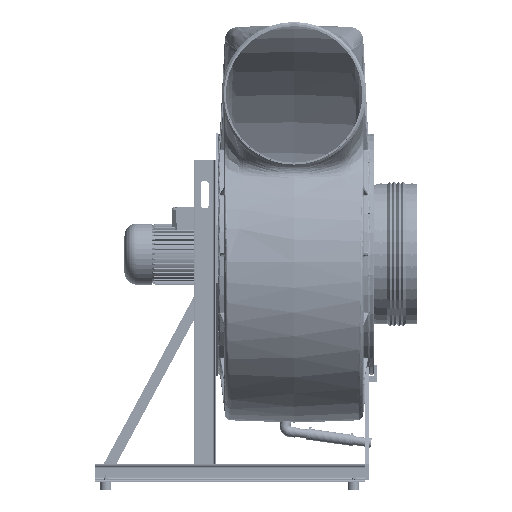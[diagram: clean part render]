
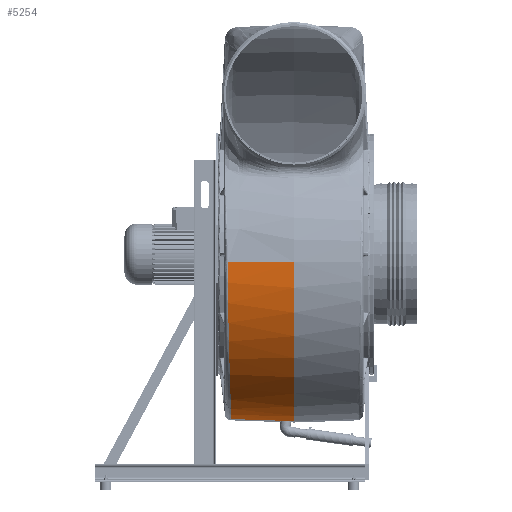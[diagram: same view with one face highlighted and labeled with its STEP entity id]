
A CAD part, left-side view. The second image highlights one B-rep face of the part: STEP entity #5254.
In plain terms, the highlighted face is a revolution surface.
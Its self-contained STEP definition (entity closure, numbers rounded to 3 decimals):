
#5254 = ADVANCED_FACE( '', ( #11540 ), #11541, .T. );
#11540 = FACE_OUTER_BOUND( '', #28043, .T. );
#11541 = SURFACE_OF_REVOLUTION( '', #28044, #28045 );
#28043 = EDGE_LOOP( '', ( #71989, #71990, #71991, #71992 ) );
#28044 = B_SPLINE_CURVE_WITH_KNOTS( '', 1, ( #71993, #71994, #71995, #71996, #71997, #71998 ), .UNSPECIFIED., .F., .F., ( 2, 1, 1, 1, 1, 2 ), ( -0.15, -0.01, 0., 1., 1.01, 1.15 ), .UNSPECIFIED. );
#28045 = AXIS1_PLACEMENT( '', #71999, #72000 );
#71989 = ORIENTED_EDGE( '', *, *, #101610, .T. );
#71990 = ORIENTED_EDGE( '', *, *, #101611, .F. );
#71991 = ORIENTED_EDGE( '', *, *, #101252, .F. );
#71992 = ORIENTED_EDGE( '', *, *, #101612, .F. );
#71993 = CARTESIAN_POINT( '', ( -287.56, -403.086, 378.263 ) );
#71994 = CARTESIAN_POINT( '', ( -252.56, -403.946, 379.109 ) );
#71995 = CARTESIAN_POINT( '', ( -250.06, -404.007, 379.169 ) );
#71996 = CARTESIAN_POINT( '', ( -0.06, -410.146, 385.21 ) );
#71997 = CARTESIAN_POINT( '', ( 2.44, -410.208, 385.271 ) );
#71998 = CARTESIAN_POINT( '', ( 37.44, -411.067, 386.116 ) );
#71999 = CARTESIAN_POINT( '', ( -125.06, -42.467, -42.467 ) );
#72000 = DIRECTION( '', ( 1., 0., 0. ) );
#101252 = EDGE_CURVE( '', #109897, #109889, #109899, .F. );
#101610 = EDGE_CURVE( '', #110503, #108474, #110504, .F. );
#101611 = EDGE_CURVE( '', #109889, #108474, #110505, .F. );
#101612 = EDGE_CURVE( '', #110503, #109897, #110506, .F. );
#108474 = VERTEX_POINT( '', #120200 );
#109889 = VERTEX_POINT( '', #125025 );
#109897 = VERTEX_POINT( '', #125078 );
#109899 = B_SPLINE_CURVE_WITH_KNOTS( '', 3, ( #125097, #125098, #125099, #125100 ), .UNSPECIFIED., .F., .F., ( 4, 4 ), ( 0., 0.954 ), .UNSPECIFIED. );
#110503 = VERTEX_POINT( '', #127485 );
#110504 = B_SPLINE_CURVE_WITH_KNOTS( '', 1, ( #127486, #127487, #127488 ), .UNSPECIFIED., .F., .F., ( 2, 1, 2 ), ( 0., 0., 0.903 ), .UNSPECIFIED. );
#110505 = CIRCLE( '', #127489, 564.001 );
#110506 = B_SPLINE_CURVE_WITH_KNOTS( '', 3, ( #127490, #127491, #127492, #127493, #127494, #127495, #127496, #127497, #127498, #127499, #127500, #127501, #127502, #127503, #127504, #127505, #127506, #127507, #127508, #127509, #127510, #127511, #127512, #127513, #127514, #127515, #127516, #127517, #127518, #127519, #127520, #127521, #127522, #127523, #127524, #127525, #127526, #127527, #127528, #127529, #127530, #127531, #127532, #127533, #127534, #127535, #127536, #127537 ), .UNSPECIFIED., .F., .F., ( 4, 2, 2, 2, 2, 2, 2, 2, 2, 2, 2, 2, 2, 2, 2, 2, 2, 2, 2, 2, 2, 2, 2, 4 ), ( 0., 0.063, 0.125, 0.188, 0.25, 0.313, 0.375, 0.438, 0.5, 0.563, 0.625, 0.688, 0.75, 0.813, 0.875, 0.938, 0.969, 0.984, 0.992, 0.996, 0.998, 0.999, 1., 1. ), .UNSPECIFIED. );
#120200 = CARTESIAN_POINT( '', ( -0.03, -601.915, 29.055 ) );
#125025 = CARTESIAN_POINT( '', ( -0.03, -29.253, 521.379 ) );
#125078 = CARTESIAN_POINT( '', ( -238.472, -28.761, 513.179 ) );
#125097 = CARTESIAN_POINT( '', ( -0.03, -29.253, 521.379 ) );
#125098 = CARTESIAN_POINT( '', ( -79.511, -29.089, 518.646 ) );
#125099 = CARTESIAN_POINT( '', ( -158.991, -28.925, 515.912 ) );
#125100 = CARTESIAN_POINT( '', ( -238.472, -28.761, 513.179 ) );
#127485 = CARTESIAN_POINT( '', ( -225.918, -594.14, 28.714 ) );
#127486 = CARTESIAN_POINT( '', ( -0.03, -601.915, 29.055 ) );
#127487 = CARTESIAN_POINT( '', ( -0.06, -601.914, 29.055 ) );
#127488 = CARTESIAN_POINT( '', ( -225.918, -594.14, 28.714 ) );
#127489 = AXIS2_PLACEMENT_3D( '', #156357, #156358, #156359 );
#127490 = CARTESIAN_POINT( '', ( -238.472, -28.761, 513.179 ) );
#127491 = CARTESIAN_POINT( '', ( -238.472, -45.757, 513.598 ) );
#127492 = CARTESIAN_POINT( '', ( -238.423, -62.735, 513.24 ) );
#127493 = CARTESIAN_POINT( '', ( -238.239, -96.661, 510.969 ) );
#127494 = CARTESIAN_POINT( '', ( -238.104, -113.536, 509.06 ) );
#127495 = CARTESIAN_POINT( '', ( -237.761, -147.113, 503.697 ) );
#127496 = CARTESIAN_POINT( '', ( -237.552, -163.743, 500.254 ) );
#127497 = CARTESIAN_POINT( '', ( -237.074, -196.691, 491.843 ) );
#127498 = CARTESIAN_POINT( '', ( -236.804, -212.937, 486.894 ) );
#127499 = CARTESIAN_POINT( '', ( -236.216, -244.979, 475.504 ) );
#127500 = CARTESIAN_POINT( '', ( -235.897, -260.705, 469.089 ) );
#127501 = CARTESIAN_POINT( '', ( -235.223, -291.573, 454.815 ) );
#127502 = CARTESIAN_POINT( '', ( -234.867, -306.647, 446.988 ) );
#127503 = CARTESIAN_POINT( '', ( -234.132, -336.081, 429.948 ) );
#127504 = CARTESIAN_POINT( '', ( -233.752, -350.377, 420.773 ) );
#127505 = CARTESIAN_POINT( '', ( -232.979, -378.129, 401.109 ) );
#127506 = CARTESIAN_POINT( '', ( -232.587, -391.526, 390.664 ) );
#127507 = CARTESIAN_POINT( '', ( -231.802, -417.364, 368.54 ) );
#127508 = CARTESIAN_POINT( '', ( -231.41, -429.748, 356.911 ) );
#127509 = CARTESIAN_POINT( '', ( -230.638, -453.453, 332.512 ) );
#127510 = CARTESIAN_POINT( '', ( -230.258, -464.721, 319.796 ) );
#127511 = CARTESIAN_POINT( '', ( -229.522, -486.093, 293.326 ) );
#127512 = CARTESIAN_POINT( '', ( -229.167, -496.149, 279.632 ) );
#127513 = CARTESIAN_POINT( '', ( -228.492, -515.007, 251.313 ) );
#127514 = CARTESIAN_POINT( '', ( -228.174, -523.766, 236.753 ) );
#127515 = CARTESIAN_POINT( '', ( -227.585, -539.951, 206.823 ) );
#127516 = CARTESIAN_POINT( '', ( -227.315, -547.339, 191.521 ) );
#127517 = CARTESIAN_POINT( '', ( -226.837, -560.711, 160.232 ) );
#127518 = CARTESIAN_POINT( '', ( -226.629, -566.666, 144.316 ) );
#127519 = CARTESIAN_POINT( '', ( -226.286, -577.113, 111.931 ) );
#127520 = CARTESIAN_POINT( '', ( -226.151, -581.583, 95.536 ) );
#127521 = CARTESIAN_POINT( '', ( -226.013, -587.157, 70.63 ) );
#127522 = CARTESIAN_POINT( '', ( -225.978, -588.823, 62.295 ) );
#127523 = CARTESIAN_POINT( '', ( -225.942, -591.033, 49.742 ) );
#127524 = CARTESIAN_POINT( '', ( -225.933, -591.721, 45.549 ) );
#127525 = CARTESIAN_POINT( '', ( -225.924, -592.682, 39.247 ) );
#127526 = CARTESIAN_POINT( '', ( -225.922, -592.991, 37.144 ) );
#127527 = CARTESIAN_POINT( '', ( -225.919, -593.435, 33.986 ) );
#127528 = CARTESIAN_POINT( '', ( -225.919, -593.58, 32.933 ) );
#127529 = CARTESIAN_POINT( '', ( -225.918, -593.793, 31.353 ) );
#127530 = CARTESIAN_POINT( '', ( -225.918, -593.864, 30.826 ) );
#127531 = CARTESIAN_POINT( '', ( -225.918, -593.968, 30.035 ) );
#127532 = CARTESIAN_POINT( '', ( -225.918, -594.003, 29.771 ) );
#127533 = CARTESIAN_POINT( '', ( -225.918, -594.054, 29.376 ) );
#127534 = CARTESIAN_POINT( '', ( -225.918, -594.071, 29.244 ) );
#127535 = CARTESIAN_POINT( '', ( -225.918, -594.106, 28.981 ) );
#127536 = CARTESIAN_POINT( '', ( -225.918, -594.122, 28.851 ) );
#127537 = CARTESIAN_POINT( '', ( -225.918, -594.14, 28.714 ) );
#156357 = CARTESIAN_POINT( '', ( -0.03, -42.467, -42.467 ) );
#156358 = DIRECTION( '', ( -1., 0., 0. ) );
#156359 = DIRECTION( '', ( 0., -1., 0. ) );
